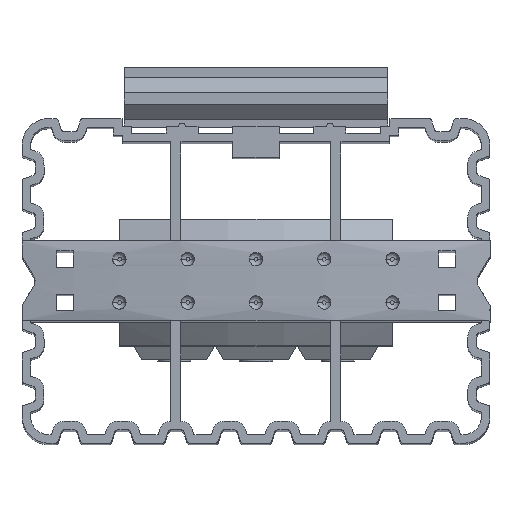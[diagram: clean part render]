
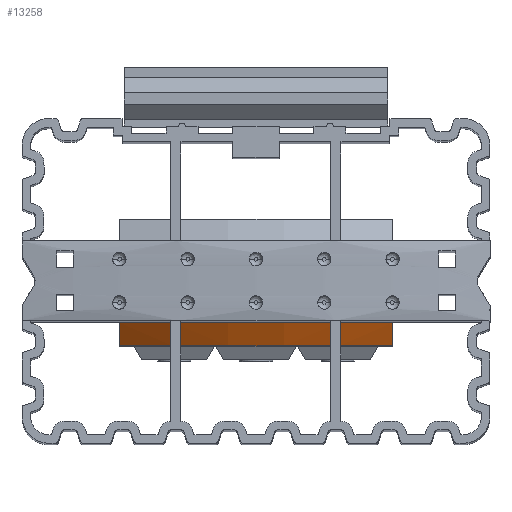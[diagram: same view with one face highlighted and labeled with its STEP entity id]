
A CAD part, top view. The second image highlights one B-rep face of the part: STEP entity #13258.
In plain terms, the highlighted conical face has half-angle 30 degrees and reference radius 54.531 mm.
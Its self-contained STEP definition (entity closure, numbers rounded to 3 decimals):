
#75 = EDGE_CURVE ( 'NONE', #8380, #1299, #17560, .T. ) ;
#516 = DIRECTION ( 'NONE',  ( 0., 0., -1. ) ) ;
#643 = CARTESIAN_POINT ( 'NONE',  ( 0., -6., -128.531 ) ) ;
#1299 = VERTEX_POINT ( 'NONE', #2103 ) ;
#1351 = B_SPLINE_CURVE_WITH_KNOTS ( 'NONE', 3,
 ( #24206, #22738, #5815, #19031 ),
 .UNSPECIFIED., .F., .F.,
 ( 4, 4 ),
 ( 0.025, 0.029 ),
 .UNSPECIFIED. ) ;
#1373 = DIRECTION ( 'NONE',  ( 0., 1., 0. ) ) ;
#1730 = CARTESIAN_POINT ( 'NONE',  ( -20.5, -6., -78. ) ) ;
#2103 = CARTESIAN_POINT ( 'NONE',  ( 20.5, -9.5, -80.188 ) ) ;
#2533 = FACE_OUTER_BOUND ( 'NONE', #21266, .T. ) ;
#4145 = AXIS2_PLACEMENT_3D ( 'NONE', #22249, #1373, #12379 ) ;
#4350 = CARTESIAN_POINT ( 'NONE',  ( 20.5, -6., -78. ) ) ;
#5633 = CARTESIAN_POINT ( 'NONE',  ( -20.5, -9.5, -80.188 ) ) ;
#5702 = CIRCLE ( 'NONE', #10041, 54.531 ) ;
#5815 = CARTESIAN_POINT ( 'NONE',  ( 20.5, -8.334, -79.457 ) ) ;
#7038 = VERTEX_POINT ( 'NONE', #1730 ) ;
#7860 = VERTEX_POINT ( 'NONE', #4350 ) ;
#8380 = VERTEX_POINT ( 'NONE', #10503 ) ;
#10041 = AXIS2_PLACEMENT_3D ( 'NONE', #643, #17438, #516 ) ;
#10089 = CARTESIAN_POINT ( 'NONE',  ( 0., -6., -128.531 ) ) ;
#10214 = DIRECTION ( 'NONE',  ( 0., 1., 0. ) ) ;
#10503 = CARTESIAN_POINT ( 'NONE',  ( -20.5, -9.5, -80.188 ) ) ;
#12379 = DIRECTION ( 'NONE',  ( 0., 0., 1. ) ) ;
#12791 = CARTESIAN_POINT ( 'NONE',  ( -20.5, -8.334, -79.457 ) ) ;
#13258 = ADVANCED_FACE ( 'NONE', ( #2533 ), #17125, .T. ) ;
#15130 = CARTESIAN_POINT ( 'NONE',  ( -20.5, -7.168, -78.728 ) ) ;
#15236 = ORIENTED_EDGE ( 'NONE', *, *, #21255, .F. ) ;
#16106 = ORIENTED_EDGE ( 'NONE', *, *, #75, .T. ) ;
#16145 = B_SPLINE_CURVE_WITH_KNOTS ( 'NONE', 3,
 ( #18859, #15130, #12791, #5633 ),
 .UNSPECIFIED., .F., .F.,
 ( 4, 4 ),
 ( 0., 0.004 ),
 .UNSPECIFIED. ) ;
#17125 = CONICAL_SURFACE ( 'NONE', #21472, 54.531, 0.524 ) ;
#17356 = EDGE_CURVE ( 'NONE', #7038, #7860, #5702, .T. ) ;
#17438 = DIRECTION ( 'NONE',  ( 0., 1., 0. ) ) ;
#17560 = CIRCLE ( 'NONE', #4145, 52.511 ) ;
#17611 = DIRECTION ( 'NONE',  ( 0., 0., -1. ) ) ;
#18859 = CARTESIAN_POINT ( 'NONE',  ( -20.5, -6., -78. ) ) ;
#19031 = CARTESIAN_POINT ( 'NONE',  ( 20.5, -9.5, -80.188 ) ) ;
#19544 = EDGE_CURVE ( 'NONE', #7038, #8380, #16145, .T. ) ;
#19591 = ORIENTED_EDGE ( 'NONE', *, *, #17356, .F. ) ;
#21255 = EDGE_CURVE ( 'NONE', #7860, #1299, #1351, .T. ) ;
#21266 = EDGE_LOOP ( 'NONE', ( #19591, #24124, #16106, #15236 ) ) ;
#21472 = AXIS2_PLACEMENT_3D ( 'NONE', #10089, #10214, #17611 ) ;
#22249 = CARTESIAN_POINT ( 'NONE',  ( 0., -9.5, -128.531 ) ) ;
#22738 = CARTESIAN_POINT ( 'NONE',  ( 20.5, -7.168, -78.728 ) ) ;
#24124 = ORIENTED_EDGE ( 'NONE', *, *, #19544, .T. ) ;
#24206 = CARTESIAN_POINT ( 'NONE',  ( 20.5, -6., -78. ) ) ;
